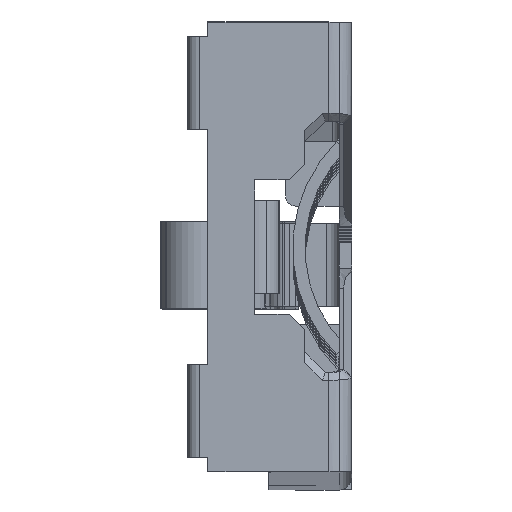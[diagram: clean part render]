
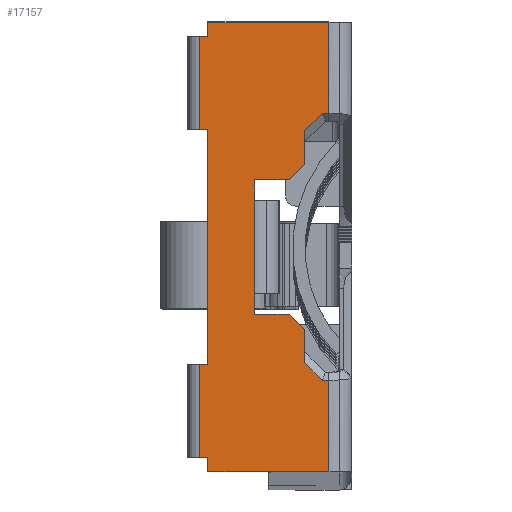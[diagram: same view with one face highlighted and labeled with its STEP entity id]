
A CAD part, top view. The second image highlights one B-rep face of the part: STEP entity #17157.
In plain terms, the highlighted planar face has unit normal (0, 0, 1).
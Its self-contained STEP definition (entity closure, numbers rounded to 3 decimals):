
#307=DIRECTION('',(-1.,0.,0.));
#308=VECTOR('',#307,11.7);
#309=CARTESIAN_POINT('',(-1.,21.75,0.));
#310=LINE('',#309,#308);
#338=DIRECTION('',(0.,1.,0.));
#339=VECTOR('',#338,8.844);
#340=CARTESIAN_POINT('',(-1.,12.906,
0.));
#341=LINE('',#340,#339);
#6272=DIRECTION('',(0.,1.,0.));
#6273=VECTOR('',#6272,8.844);
#6274=CARTESIAN_POINT('',(-1.,-21.75,0.));
#6275=LINE('',#6274,#6273);
#6342=DIRECTION('',(1.,0.,0.));
#6343=VECTOR('',#6342,0.8);
#6344=CARTESIAN_POINT('',(-13.5,-20.37,0.));
#6345=LINE('',#6344,#6343);
#6349=DIRECTION('',(1.,0.,0.));
#6350=VECTOR('',#6349,0.8);
#6351=CARTESIAN_POINT('',(-13.5,-11.37,0.));
#6352=LINE('',#6351,#6350);
#6356=DIRECTION('',(0.,-1.,0.));
#6357=VECTOR('',#6356,22.74);
#6358=CARTESIAN_POINT('',(-12.7,11.37,0.));
#6359=LINE('',#6358,#6357);
#6363=DIRECTION('',(1.,0.,0.));
#6364=VECTOR('',#6363,0.8);
#6365=CARTESIAN_POINT('',(-13.5,11.37,0.));
#6366=LINE('',#6365,#6364);
#6370=DIRECTION('',(1.,0.,0.));
#6371=VECTOR('',#6370,0.8);
#6372=CARTESIAN_POINT('',(-13.5,20.37,0.));
#6373=LINE('',#6372,#6371);
#6377=DIRECTION('',(0.,-1.,0.));
#6378=VECTOR('',#6377,1.38);
#6379=CARTESIAN_POINT('',(-12.7,21.75,0.));
#6380=LINE('',#6379,#6378);
#6384=DIRECTION('',(1.,0.,0.));
#6385=VECTOR('',#6384,0.637);
#6386=CARTESIAN_POINT('',(-1.637,12.906,
0.));
#6387=LINE('',#6386,#6385);
#6391=DIRECTION('',(-0.707,-0.707,0.));
#6392=VECTOR('',#6391,2.389);
#6393=CARTESIAN_POINT('',(-1.637,12.906,
0.));
#6394=LINE('',#6393,#6392);
#6398=DIRECTION('',(0.,1.,0.));
#6399=VECTOR('',#6398,1.);
#6400=CARTESIAN_POINT('',(-3.326,8.,0.));
#6401=LINE('',#6400,#6399);
#6405=DIRECTION('',(0.707,0.707,0.));
#6406=VECTOR('',#6405,2.121);
#6407=CARTESIAN_POINT('',(-4.826,6.5,0.));
#6408=LINE('',#6407,#6406);
#6412=DIRECTION('',(-1.,0.,0.));
#6413=VECTOR('',#6412,3.36);
#6414=CARTESIAN_POINT('',(-4.826,6.5,0.));
#6415=LINE('',#6414,#6413);
#6419=DIRECTION('',(0.,1.,0.));
#6420=VECTOR('',#6419,2.);
#6421=CARTESIAN_POINT('',(-8.187,4.5,0.));
#6422=LINE('',#6421,#6420);
#6426=DIRECTION('',(0.,-1.,0.));
#6427=VECTOR('',#6426,2.);
#6428=CARTESIAN_POINT('',(-8.187,-4.5,0.));
#6429=LINE('',#6428,#6427);
#6433=DIRECTION('',(-1.,0.,0.));
#6434=VECTOR('',#6433,3.36);
#6435=CARTESIAN_POINT('',(-4.826,-6.5,0.));
#6436=LINE('',#6435,#6434);
#6440=DIRECTION('',(-0.707,0.707,0.));
#6441=VECTOR('',#6440,2.121);
#6442=CARTESIAN_POINT('',(-3.326,-8.,0.));
#6443=LINE('',#6442,#6441);
#6447=DIRECTION('',(0.,1.,0.));
#6448=VECTOR('',#6447,1.);
#6449=CARTESIAN_POINT('',(-3.326,-9.,0.));
#6450=LINE('',#6449,#6448);
#6454=DIRECTION('',(0.707,-0.707,0.));
#6455=VECTOR('',#6454,2.389);
#6456=CARTESIAN_POINT('',(-3.326,-11.217,0.));
#6457=LINE('',#6456,#6455);
#6461=DIRECTION('',(-1.,0.,0.));
#6462=VECTOR('',#6461,0.637);
#6463=CARTESIAN_POINT('',(-1.,-12.906,
0.));
#6464=LINE('',#6463,#6462);
#6468=DIRECTION('',(0.,1.,0.));
#6469=VECTOR('',#6468,1.38);
#6470=CARTESIAN_POINT('',(-12.7,-21.75,0.));
#6471=LINE('',#6470,#6469);
#6475=DIRECTION('',(0.,1.,0.));
#6476=VECTOR('',#6475,9.);
#6477=CARTESIAN_POINT('',(-13.5,11.37,0.));
#6478=LINE('',#6477,#6476);
#6505=DIRECTION('',(0.,1.,0.));
#6506=VECTOR('',#6505,9.);
#6507=CARTESIAN_POINT('',(-13.5,-20.37,0.));
#6508=LINE('',#6507,#6506);
#6717=DIRECTION('',(0.,1.,0.));
#6718=VECTOR('',#6717,2.217);
#6719=CARTESIAN_POINT('',(-3.326,9.,0.));
#6720=LINE('',#6719,#6718);
#6824=DIRECTION('',(0.,-1.,0.));
#6825=VECTOR('',#6824,9.);
#6826=CARTESIAN_POINT('',(-8.187,4.5,0.));
#6827=LINE('',#6826,#6825);
#6994=DIRECTION('',(0.,1.,0.));
#6995=VECTOR('',#6994,2.217);
#6996=CARTESIAN_POINT('',(-3.326,-11.217,0.));
#6997=LINE('',#6996,#6995);
#7008=DIRECTION('',(1.,0.,0.));
#7009=VECTOR('',#7008,11.7);
#7010=CARTESIAN_POINT('',(-12.7,-21.75,0.));
#7011=LINE('',#7010,#7009);
#11531=CARTESIAN_POINT('',(-1.,21.75,0.));
#11533=VERTEX_POINT('',#11531);
#11535=CARTESIAN_POINT('',(-1.,-21.75,0.));
#11537=VERTEX_POINT('',#11535);
#11592=CARTESIAN_POINT('',(-3.326,-9.,0.));
#11594=VERTEX_POINT('',#11592);
#11596=CARTESIAN_POINT('',(-3.326,9.,0.));
#11598=VERTEX_POINT('',#11596);
#11656=CARTESIAN_POINT('',(-1.,-12.906,
0.));
#11657=CARTESIAN_POINT('',(-1.637,-12.906,
0.));
#11658=VERTEX_POINT('',#11656);
#11659=VERTEX_POINT('',#11657);
#11664=CARTESIAN_POINT('',(-1.637,12.906,
0.));
#11665=CARTESIAN_POINT('',(-1.,12.906,
0.));
#11666=VERTEX_POINT('',#11664);
#11667=VERTEX_POINT('',#11665);
#11888=CARTESIAN_POINT('',(-3.326,-11.217,0.));
#11889=VERTEX_POINT('',#11888);
#11890=CARTESIAN_POINT('',(-3.326,11.217,0.));
#11891=VERTEX_POINT('',#11890);
#12002=CARTESIAN_POINT('',(-8.187,-4.5,0.));
#12003=CARTESIAN_POINT('',(-8.187,-6.5,0.));
#12004=VERTEX_POINT('',#12002);
#12005=VERTEX_POINT('',#12003);
#12010=CARTESIAN_POINT('',(-8.187,4.5,0.));
#12011=CARTESIAN_POINT('',(-8.187,6.5,0.));
#12012=VERTEX_POINT('',#12010);
#12013=VERTEX_POINT('',#12011);
#12018=CARTESIAN_POINT('',(-4.826,-6.5,0.));
#12019=VERTEX_POINT('',#12018);
#12022=CARTESIAN_POINT('',(-4.826,6.5,0.));
#12023=VERTEX_POINT('',#12022);
#12271=CARTESIAN_POINT('',(-13.5,-20.37,0.));
#12272=CARTESIAN_POINT('',(-12.7,-20.37,0.));
#12273=VERTEX_POINT('',#12271);
#12274=VERTEX_POINT('',#12272);
#12275=CARTESIAN_POINT('',(-12.7,-21.75,0.));
#12276=VERTEX_POINT('',#12275);
#12277=CARTESIAN_POINT('',(-13.5,-11.37,0.));
#12278=CARTESIAN_POINT('',(-12.7,-11.37,0.));
#12279=VERTEX_POINT('',#12277);
#12280=VERTEX_POINT('',#12278);
#12281=CARTESIAN_POINT('',(-13.5,11.37,0.));
#12282=CARTESIAN_POINT('',(-12.7,11.37,0.));
#12283=VERTEX_POINT('',#12281);
#12284=VERTEX_POINT('',#12282);
#12285=CARTESIAN_POINT('',(-13.5,20.37,0.));
#12286=CARTESIAN_POINT('',(-12.7,20.37,0.));
#12287=VERTEX_POINT('',#12285);
#12288=VERTEX_POINT('',#12286);
#12289=CARTESIAN_POINT('',(-12.7,21.75,0.));
#12290=VERTEX_POINT('',#12289);
#12371=CARTESIAN_POINT('',(-3.326,-8.,0.));
#12372=VERTEX_POINT('',#12371);
#12377=CARTESIAN_POINT('',(-3.326,8.,0.));
#12378=VERTEX_POINT('',#12377);
#17102=CARTESIAN_POINT('',(1.2,21.75,0.));
#17103=DIRECTION('',(0.,0.,1.));
#17104=DIRECTION('',(0.,1.,0.));
#17105=AXIS2_PLACEMENT_3D('',#17102,#17103,#17104);
#17106=PLANE('',#17105);
#17107=ORIENTED_EDGE('',*,*,#13507,.F.);
#17109=ORIENTED_EDGE('',*,*,#17108,.T.);
#17111=ORIENTED_EDGE('',*,*,#17110,.T.);
#17113=ORIENTED_EDGE('',*,*,#17112,.F.);
#17115=ORIENTED_EDGE('',*,*,#17114,.F.);
#17117=ORIENTED_EDGE('',*,*,#17116,.T.);
#17118=ORIENTED_EDGE('',*,*,#13643,.T.);
#17119=ORIENTED_EDGE('',*,*,#13657,.F.);
#17120=ORIENTED_EDGE('',*,*,#13672,.F.);
#17121=ORIENTED_EDGE('',*,*,#13699,.F.);
#17123=ORIENTED_EDGE('',*,*,#17122,.F.);
#17125=ORIENTED_EDGE('',*,*,#17124,.T.);
#17127=ORIENTED_EDGE('',*,*,#17126,.F.);
#17129=ORIENTED_EDGE('',*,*,#17128,.F.);
#17131=ORIENTED_EDGE('',*,*,#17130,.F.);
#17133=ORIENTED_EDGE('',*,*,#17132,.T.);
#17135=ORIENTED_EDGE('',*,*,#17134,.F.);
#17137=ORIENTED_EDGE('',*,*,#17136,.T.);
#17139=ORIENTED_EDGE('',*,*,#17138,.T.);
#17141=ORIENTED_EDGE('',*,*,#17140,.F.);
#17143=ORIENTED_EDGE('',*,*,#17142,.F.);
#17145=ORIENTED_EDGE('',*,*,#17144,.F.);
#17147=ORIENTED_EDGE('',*,*,#17146,.F.);
#17148=ORIENTED_EDGE('',*,*,#17095,.T.);
#17149=ORIENTED_EDGE('',*,*,#17053,.F.);
#17150=ORIENTED_EDGE('',*,*,#16969,.F.);
#17152=ORIENTED_EDGE('',*,*,#17151,.F.);
#17154=ORIENTED_EDGE('',*,*,#17153,.T.);
#17155=EDGE_LOOP('',(#17107,#17109,#17111,#17113,#17115,#17117,#17118,#17119,
#17120,#17121,#17123,#17125,#17127,#17129,#17131,#17133,#17135,#17137,#17139,
#17141,#17143,#17145,#17147,#17148,#17149,#17150,#17152,#17154));
#17156=FACE_OUTER_BOUND('',#17155,.F.);
#17157=ADVANCED_FACE('',(#17156),#17106,.T.);
#13507=EDGE_CURVE('',#12273,#12274,#6345,.T.);
#13643=EDGE_CURVE('',#12287,#12288,#6373,.T.);
#13657=EDGE_CURVE('',#12290,#12288,#6380,.T.);
#13672=EDGE_CURVE('',#11533,#12290,#310,.T.);
#13699=EDGE_CURVE('',#11667,#11533,#341,.T.);
#16969=EDGE_CURVE('',#11537,#11658,#6275,.T.);
#17053=EDGE_CURVE('',#11658,#11659,#6464,.T.);
#17095=EDGE_CURVE('',#11889,#11659,#6457,.T.);
#17108=EDGE_CURVE('',#12273,#12279,#6508,.T.);
#17110=EDGE_CURVE('',#12279,#12280,#6352,.T.);
#17112=EDGE_CURVE('',#12284,#12280,#6359,.T.);
#17114=EDGE_CURVE('',#12283,#12284,#6366,.T.);
#17116=EDGE_CURVE('',#12283,#12287,#6478,.T.);
#17122=EDGE_CURVE('',#11666,#11667,#6387,.T.);
#17124=EDGE_CURVE('',#11666,#11891,#6394,.T.);
#17126=EDGE_CURVE('',#11598,#11891,#6720,.T.);
#17128=EDGE_CURVE('',#12378,#11598,#6401,.T.);
#17130=EDGE_CURVE('',#12023,#12378,#6408,.T.);
#17132=EDGE_CURVE('',#12023,#12013,#6415,.T.);
#17134=EDGE_CURVE('',#12012,#12013,#6422,.T.);
#17136=EDGE_CURVE('',#12012,#12004,#6827,.T.);
#17138=EDGE_CURVE('',#12004,#12005,#6429,.T.);
#17140=EDGE_CURVE('',#12019,#12005,#6436,.T.);
#17142=EDGE_CURVE('',#12372,#12019,#6443,.T.);
#17144=EDGE_CURVE('',#11594,#12372,#6450,.T.);
#17146=EDGE_CURVE('',#11889,#11594,#6997,.T.);
#17151=EDGE_CURVE('',#12276,#11537,#7011,.T.);
#17153=EDGE_CURVE('',#12276,#12274,#6471,.T.);
